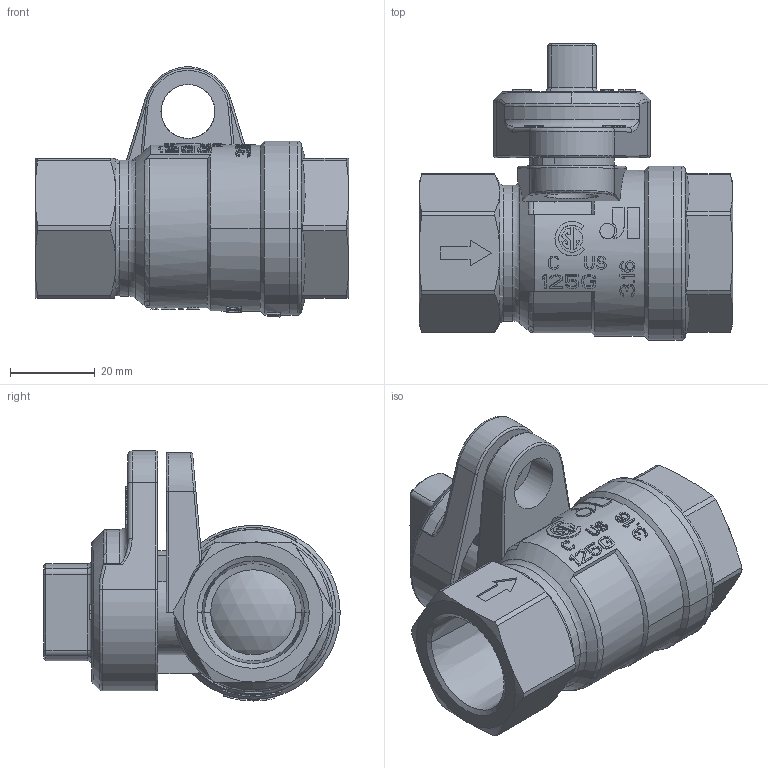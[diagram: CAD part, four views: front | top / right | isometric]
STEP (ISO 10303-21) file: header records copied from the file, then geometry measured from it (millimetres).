
FILE_DESCRIPTION((''),'2;1');
FILE_NAME('175LWN_3-4_ASM','2015-07-29T',('sergio.dandrea'),(''),'CREO PARAMETRIC BY PTC INC, 2015080','CREO PARAMETRIC BY PTC INC, 2015080','');
FILE_SCHEMA(('CONFIG_CONTROL_DESIGN'));
Length unit declared in the file: millimetre
Products named in the file (9): 92200; 87189; 92204; 91018; 87164; SEDE_PTFE_F20; 92202; 92288; 175LWN_3-4_ASM
Assembly tree (9 placements, depth 2):
  175LWN_3-4_ASM
    92200
    87189
    92204
    91018
    87164
    SEDE_PTFE_F20  x2
    92202
    92288
Bounding box: 73.9 x 69.8 x 58.86 mm (x, y, z)
Volume: 70468.7 mm3; surface area: 42506.4 mm2
Topology: 9 solids, 13 shells, 1425 faces, 3830 edges, 2485 vertices
Faces by surface type: plane 669, bspline 394, cylinder 171, cone 99, torus 64, extrusion 22, sphere 6
Entity records: 54583 total; most frequent: CARTESIAN_POINT 21260, ORIENTED_EDGE 7582, DIRECTION 5678, EDGE_CURVE 3800, VERTEX_POINT 2469, VECTOR 2246, LINE 2224, AXIS2_PLACEMENT_3D 1716
